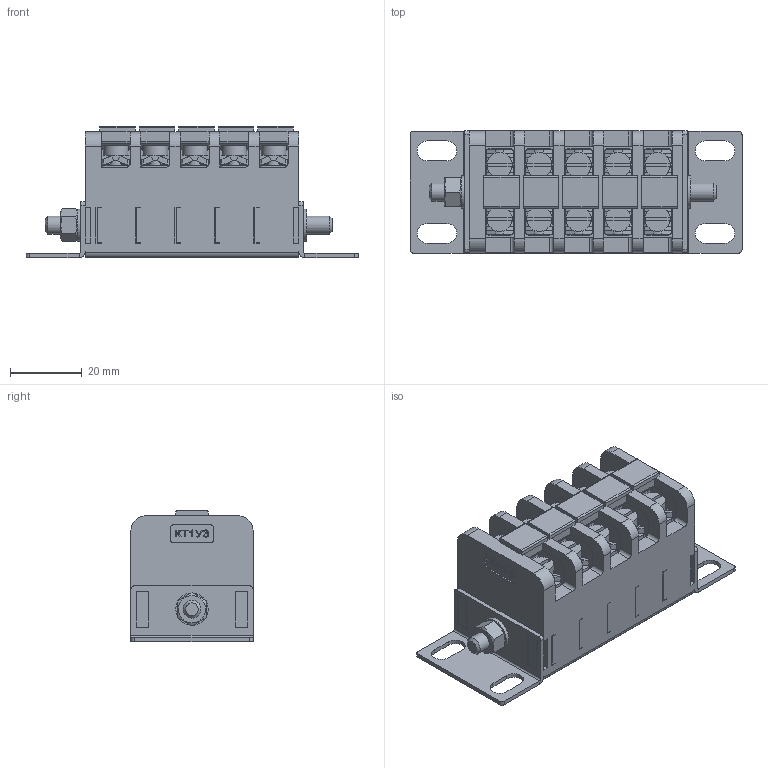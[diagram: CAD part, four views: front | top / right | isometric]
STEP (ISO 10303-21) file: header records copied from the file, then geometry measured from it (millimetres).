
FILE_DESCRIPTION(('STEP AP214'), '1');
FILE_NAME('ÁÇÍ28-4Ï16 (5 êëåìì â áëîêå) ', '2023-09-22T14:00:06', (''), (''), 'ASCON STEP Converter 1.6', 'ASCON Math Kernel', '');
FILE_SCHEMA(('AUTOMOTIVE_DESIGN { 1 0 10303 214 3 1 1}'));
Length unit declared in the file: millimetre
Bounding box: 92.5 x 34 x 36.5 mm (x, y, z)
Volume: 41543.5 mm3; surface area: 37930.5 mm2
Topology: 21 solids, 21 shells, 6731 faces, 18873 edges, 12396 vertices
Faces by surface type: cylinder 3879, plane 2638, bspline 160, cone 54
Full cylindrical faces by diameter (mm): 4 x10, 4.1 x10, 5 x2, 5.3 x2, 5.5 x8, 6.5 x5, 7 x10, 9 x2, 10.5 x12
Entity records: 278350 total; most frequent: CARTESIAN_POINT 46176, DIRECTION 38642, ORIENTED_EDGE 37596, EDGE_CURVE 18798, AXIS2_PLACEMENT_3D 14014, VERTEX_POINT 12396, LINE 10614, VECTOR 10614
